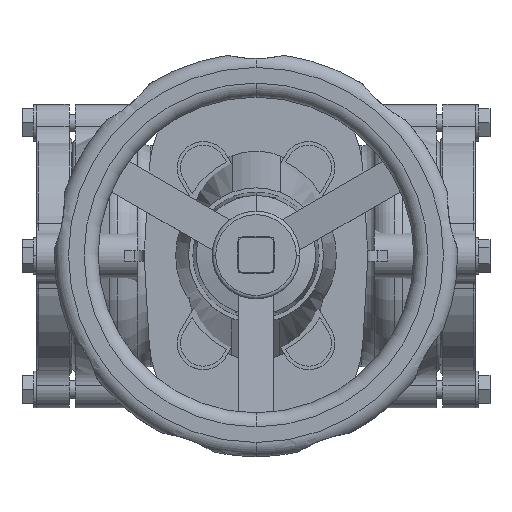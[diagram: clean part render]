
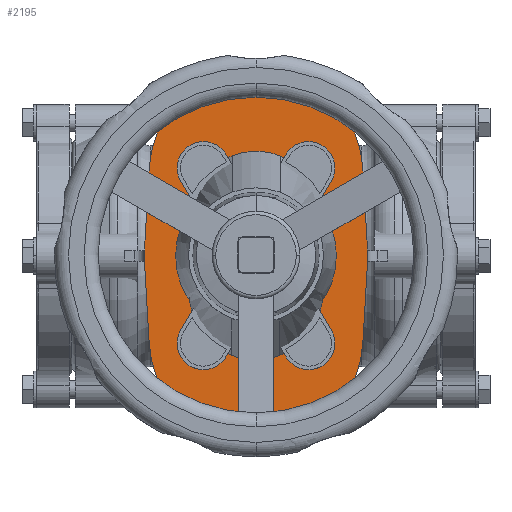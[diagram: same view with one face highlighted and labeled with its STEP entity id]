
A CAD part, top view. The second image highlights one B-rep face of the part: STEP entity #2195.
In plain terms, the highlighted planar face has unit normal (0, 0, 1).
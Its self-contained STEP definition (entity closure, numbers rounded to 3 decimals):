
#2195=ADVANCED_FACE('',(#4477),#4478,.T.);
#4477=FACE_OUTER_BOUND('',#7586,.T.);
#4478=PLANE('',#7587);
#7586=EDGE_LOOP('',(#11461,#11462,#11463,#11464,#11465,#11466,#11467,#11468,#11469,#11470));
#7587=AXIS2_PLACEMENT_3D('',#11471,#11472,#11473);
#11461=ORIENTED_EDGE('',*,*,#17295,.F.);
#11462=ORIENTED_EDGE('',*,*,#17514,.F.);
#11463=ORIENTED_EDGE('',*,*,#17515,.F.);
#11464=ORIENTED_EDGE('',*,*,#17516,.F.);
#11465=ORIENTED_EDGE('',*,*,#17517,.F.);
#11466=ORIENTED_EDGE('',*,*,#17518,.F.);
#11467=ORIENTED_EDGE('',*,*,#17519,.F.);
#11468=ORIENTED_EDGE('',*,*,#17520,.F.);
#11469=ORIENTED_EDGE('',*,*,#17521,.F.);
#11470=ORIENTED_EDGE('',*,*,#17522,.F.);
#11471=CARTESIAN_POINT('',(35.,0.006,158.0));
#11472=DIRECTION('',(0.0,0.0,1.0));
#11473=DIRECTION('',(1.0,0.0,0.0));
#17295=EDGE_CURVE('',#20598,#20599,#20600,.T.);
#17514=EDGE_CURVE('',#20951,#20598,#20952,.T.);
#17515=EDGE_CURVE('',#20953,#20951,#20954,.T.);
#17516=EDGE_CURVE('',#20955,#20953,#20956,.T.);
#17517=EDGE_CURVE('',#20957,#20955,#20958,.T.);
#17518=EDGE_CURVE('',#20959,#20957,#20960,.T.);
#17519=EDGE_CURVE('',#20961,#20959,#20962,.T.);
#17520=EDGE_CURVE('',#20963,#20961,#20964,.T.);
#17521=EDGE_CURVE('',#20965,#20963,#20966,.T.);
#17522=EDGE_CURVE('',#20599,#20965,#20967,.T.);
#20598=VERTEX_POINT('',#24954);
#20599=VERTEX_POINT('',#24955);
#20600=CIRCLE('',#24956,60.99);
#20951=VERTEX_POINT('',#25445);
#20952=LINE('',#25446,#25447);
#20953=VERTEX_POINT('',#25448);
#20954=CIRCLE('',#25449,167.639);
#20955=VERTEX_POINT('',#25450);
#20956=CIRCLE('',#25451,167.639);
#20957=VERTEX_POINT('',#25452);
#20958=LINE('',#25453,#25454);
#20959=VERTEX_POINT('',#25455);
#20960=CIRCLE('',#25456,61.);
#20961=VERTEX_POINT('',#25457);
#20962=LINE('',#25458,#25459);
#20963=VERTEX_POINT('',#25460);
#20964=CIRCLE('',#25461,167.639);
#20965=VERTEX_POINT('',#25462);
#20966=CIRCLE('',#25463,167.639);
#20967=LINE('',#25464,#25465);
#24954=CARTESIAN_POINT('',(95.888,-50.02,158.0));
#24955=CARTESIAN_POINT('',(-25.888,-50.02,158.0));
#24956=AXIS2_PLACEMENT_3D('',#29485,#29486,#29487);
#25445=CARTESIAN_POINT('',(98.221,-9.674,158.0));
#25446=CARTESIAN_POINT('',(98.221,-9.674,158.0));
#25447=VECTOR('',#29771,1.0);
#25448=CARTESIAN_POINT('',(98.5,0.,158.0));
#25449=AXIS2_PLACEMENT_3D('',#29772,#29773,#29774);
#25450=CARTESIAN_POINT('',(98.223,9.633,158.0));
#25451=AXIS2_PLACEMENT_3D('',#29775,#29776,#29777);
#25452=CARTESIAN_POINT('',(95.899,50.005,158.0));
#25453=CARTESIAN_POINT('',(95.899,50.005,158.0));
#25454=VECTOR('',#29778,1.0);
#25455=CARTESIAN_POINT('',(-25.899,50.005,158.0));
#25456=AXIS2_PLACEMENT_3D('',#29779,#29780,#29781);
#25457=CARTESIAN_POINT('',(-28.223,9.633,158.0));
#25458=CARTESIAN_POINT('',(-28.223,9.633,158.0));
#25459=VECTOR('',#29782,1.0);
#25460=CARTESIAN_POINT('',(-28.5,0.,158.0));
#25461=AXIS2_PLACEMENT_3D('',#29783,#29784,#29785);
#25462=CARTESIAN_POINT('',(-28.221,-9.675,158.0));
#25463=AXIS2_PLACEMENT_3D('',#29786,#29787,#29788);
#25464=CARTESIAN_POINT('',(-25.888,-50.02,158.0));
#25465=VECTOR('',#29789,1.0);
#29485=CARTESIAN_POINT('',(35.,-46.5,158.0));
#29486=DIRECTION('',(0.0,0.0,-1.0));
#29487=DIRECTION('',(-1.0,0.0,0.0));
#29771=DIRECTION('',(-0.058,-0.998,0.0));
#29772=CARTESIAN_POINT('',(-69.139,0.,158.0));
#29773=DIRECTION('',(0.0,0.0,-1.0));
#29774=DIRECTION('',(-1.0,0.0,0.0));
#29775=CARTESIAN_POINT('',(-69.139,0.,158.0));
#29776=DIRECTION('',(0.0,0.0,-1.0));
#29777=DIRECTION('',(-1.0,0.0,0.0));
#29778=DIRECTION('',(0.057,-0.998,0.0));
#29779=CARTESIAN_POINT('',(35.0,46.5,158.0));
#29780=DIRECTION('',(0.0,0.0,-1.0));
#29781=DIRECTION('',(-1.0,0.0,0.0));
#29782=DIRECTION('',(0.057,0.998,0.0));
#29783=CARTESIAN_POINT('',(139.139,0.,158.0));
#29784=DIRECTION('',(0.0,0.0,-1.0));
#29785=DIRECTION('',(-1.0,0.0,0.0));
#29786=CARTESIAN_POINT('',(139.139,0.,158.0));
#29787=DIRECTION('',(0.0,0.0,-1.0));
#29788=DIRECTION('',(-1.0,0.0,0.0));
#29789=DIRECTION('',(-0.058,0.998,0.0));
